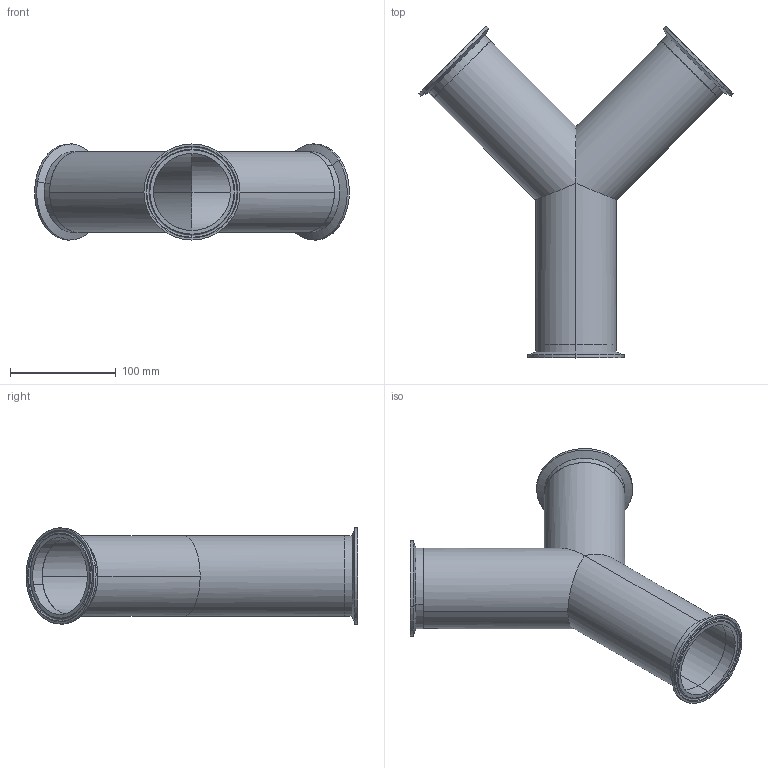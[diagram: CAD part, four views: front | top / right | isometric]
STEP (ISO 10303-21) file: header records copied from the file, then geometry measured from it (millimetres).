
FILE_DESCRIPTION (( 'STEP AP203' ), '1' );
FILE_NAME ('EG28B 3.0.STEP', '2021-10-08T19:26:01', ( '' ), ( '' ), 'SwSTEP 2.0', 'SolidWorks 2021', '' );
FILE_SCHEMA (( 'CONFIG_CONTROL_DESIGN' ));
Length unit declared in the file: inch
Products named in the file (3): EG2CS3.0; V28WB3.0; EG28B 3.0
Assembly tree (4 placements, depth 2):
  EG28B 3.0
    V28WB3.0
    EG2CS3.0  x3
Bounding box: 297.72 x 313.97 x 90.91 mm (x, y, z)
Volume: 196872.5 mm3; surface area: 226333.6 mm2
Topology: 4 solids, 4 shells, 66 faces, 138 edges, 82 vertices
Faces by surface type: cylinder 30, torus 18, plane 12, cone 6
Entity records: 1267 total; most frequent: CARTESIAN_POINT 187, DIRECTION 174, ORIENTED_EDGE 140, AXIS2_PLACEMENT_3D 77, EDGE_CURVE 70, VERTEX_POINT 42, EDGE_LOOP 38, CIRCLE 38
